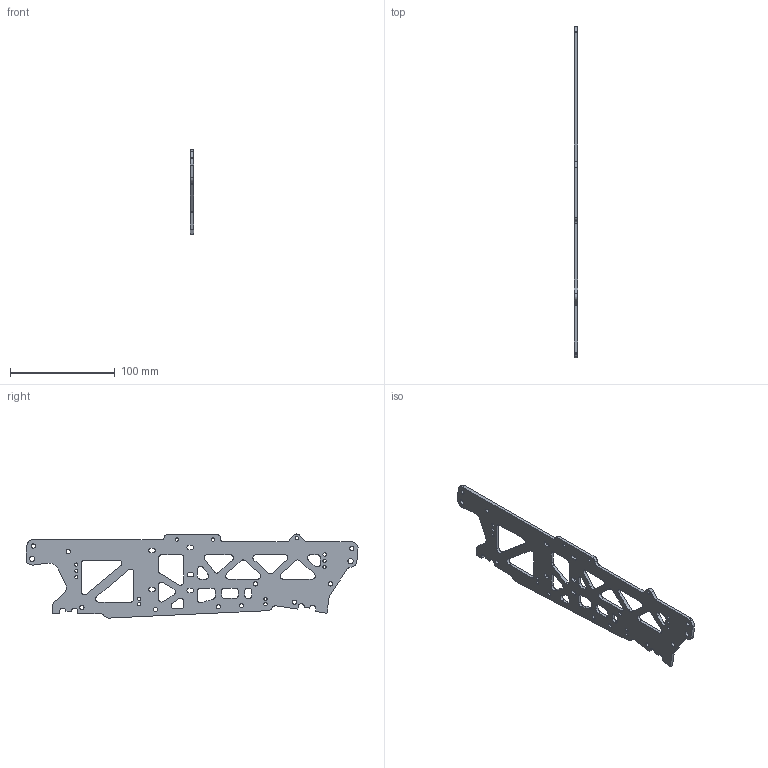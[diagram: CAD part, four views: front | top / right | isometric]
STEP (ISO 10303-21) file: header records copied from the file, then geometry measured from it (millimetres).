
FILE_DESCRIPTION(/* description */ (''),/* implementation_level */ '2;1');
FILE_NAME(/* name */ 'frame_26012016.stp',/* time_stamp */ '2016-01-26T01:26:01+03:00',/* author */ (''),/* organization */ (''),/* preprocessor_version */ 'ST-DEVELOPER v15',/* originating_system */ 'SIEMENS PLM Software NX 9.0',/* authorisation */ '');
FILE_SCHEMA (('AUTOMOTIVE_DESIGN { 1 0 10303 214 3 1 1 1 }'));
Length unit declared in the file: millimetre
Products named in the file (1): c0f007BCC3D27itq
Bounding box: 3 x 316.5 x 80.19 mm (x, y, z)
Volume: 44291.7 mm3; surface area: 35877 mm2
Topology: 1 solids, 1 shells, 191 faces, 567 edges, 378 vertices
Faces by surface type: cylinder 105, plane 86
Full cylindrical faces by diameter (mm): 3 x3, 3.1 x10, 4 x4, 4.1 x6, 5 x2
Entity records: 6554 total; most frequent: DIRECTION 1136, CARTESIAN_POINT 1112, ORIENTED_EDGE 1084, EDGE_CURVE 542, AXIS2_PLACEMENT_3D 402, VERTEX_POINT 378, LINE 332, VECTOR 332
